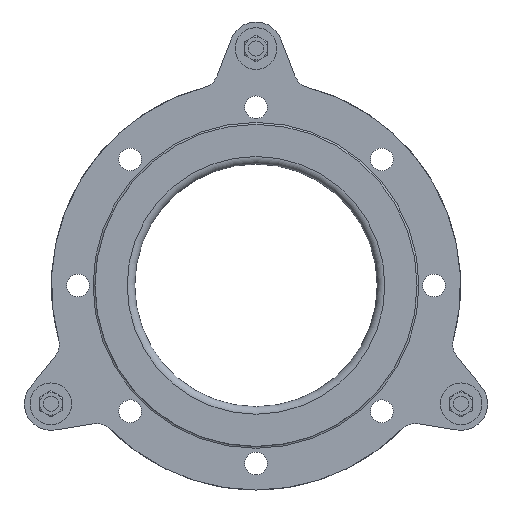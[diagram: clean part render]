
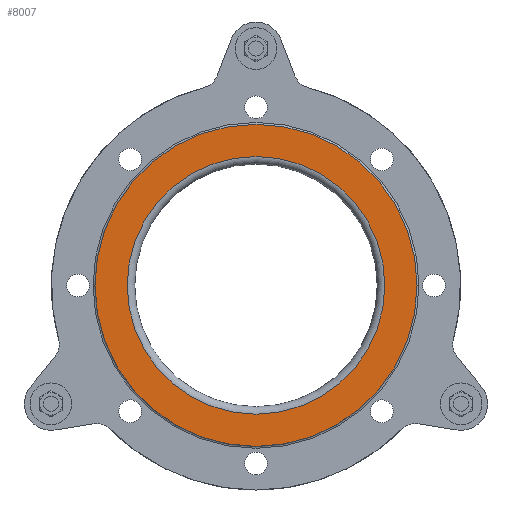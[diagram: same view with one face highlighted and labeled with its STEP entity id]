
A CAD part, left-side view. The second image highlights one B-rep face of the part: STEP entity #8007.
In plain terms, the highlighted planar face has unit normal (-1, 0, 0).
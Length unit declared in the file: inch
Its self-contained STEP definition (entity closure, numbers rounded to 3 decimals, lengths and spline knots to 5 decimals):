
#1173=PLANE('',#8867);
#1397=FACE_BOUND('',#2460,.T.);
#1779=FACE_OUTER_BOUND('',#2459,.T.);
#2459=EDGE_LOOP('',(#6300));
#2460=EDGE_LOOP('',(#6301));
#3036=CIRCLE('',#8866,5.3125);
#3037=CIRCLE('',#8868,4.25);
#3633=VERTEX_POINT('',#13799);
#3634=VERTEX_POINT('',#13802);
#4547=EDGE_CURVE('',#3633,#3633,#3036,.T.);
#4548=EDGE_CURVE('',#3634,#3634,#3037,.T.);
#6300=ORIENTED_EDGE('',*,*,#4547,.T.);
#6301=ORIENTED_EDGE('',*,*,#4548,.F.);
#8007=ADVANCED_FACE('',(#1779,#1397),#1173,.T.);
#8866=AXIS2_PLACEMENT_3D('',#13800,#10676,#10677);
#8867=AXIS2_PLACEMENT_3D('',#13801,#10678,#10679);
#8868=AXIS2_PLACEMENT_3D('',#13803,#10680,#10681);
#10676=DIRECTION('center_axis',(-1.,0.,0.));
#10677=DIRECTION('ref_axis',(0.,-1.,0.));
#10678=DIRECTION('center_axis',(-1.,0.,0.));
#10679=DIRECTION('ref_axis',(0.,-1.,0.));
#10680=DIRECTION('center_axis',(-1.,0.,0.));
#10681=DIRECTION('ref_axis',(0.,-1.,0.));
#13799=CARTESIAN_POINT('',(-2.,0.,5.3125));
#13800=CARTESIAN_POINT('Origin',(-2.,0.,0.));
#13801=CARTESIAN_POINT('Origin',(-2.,0.,4.25));
#13802=CARTESIAN_POINT('',(-2.,0.,4.25));
#13803=CARTESIAN_POINT('Origin',(-2.,0.,0.));
